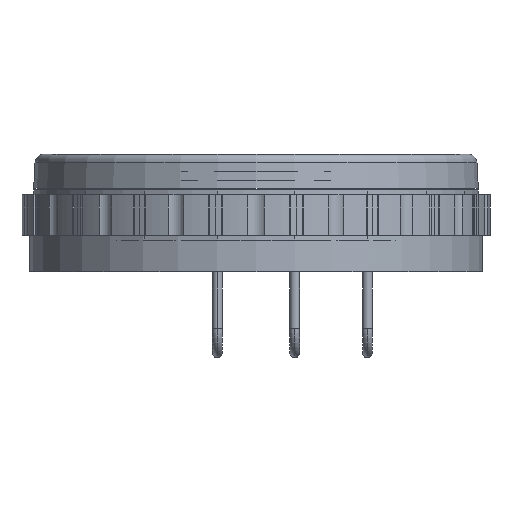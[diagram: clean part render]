
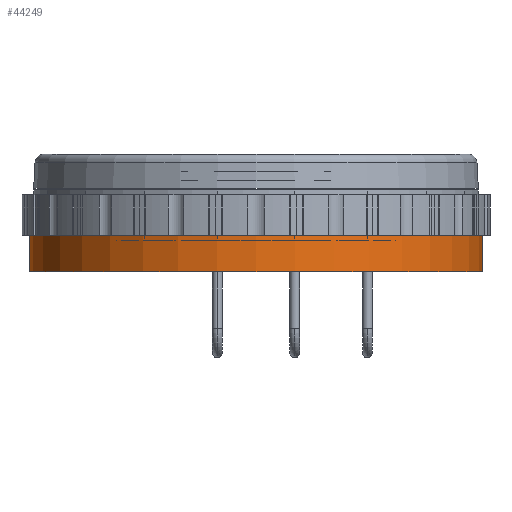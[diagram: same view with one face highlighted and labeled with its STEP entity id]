
A CAD part, front view. The second image highlights one B-rep face of the part: STEP entity #44249.
In plain terms, the highlighted cylindrical face has radius 28 mm (diameter 56 mm), a partial arc.
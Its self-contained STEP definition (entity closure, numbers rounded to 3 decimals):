
#398 = AXIS2_PLACEMENT_3D ( 'NONE', #15851, #28829, #43590 ) ;
#681 = CARTESIAN_POINT ( 'NONE',  ( -28., 0., -4.5 ) ) ;
#1208 = ORIENTED_EDGE ( 'NONE', *, *, #35914, .T. ) ;
#2102 = ORIENTED_EDGE ( 'NONE', *, *, #3829, .F. ) ;
#2933 = CIRCLE ( 'NONE', #41403, 28. ) ;
#3227 = VERTEX_POINT ( 'NONE', #36414 ) ;
#3829 = EDGE_CURVE ( 'NONE', #3227, #13416, #2933, .T. ) ;
#4779 = VERTEX_POINT ( 'NONE', #26684 ) ;
#5499 = DIRECTION ( 'NONE',  ( 0., 0., 1. ) ) ;
#8538 = VERTEX_POINT ( 'NONE', #22585 ) ;
#10315 = LINE ( 'NONE', #34419, #40039 ) ;
#13400 = EDGE_LOOP ( 'NONE', ( #35720, #14197, #1208, #2102 ) ) ;
#13416 = VERTEX_POINT ( 'NONE', #19790 ) ;
#14197 = ORIENTED_EDGE ( 'NONE', *, *, #26878, .T. ) ;
#15851 = CARTESIAN_POINT ( 'NONE',  ( 0., 0., -4.5 ) ) ;
#18815 = CARTESIAN_POINT ( 'NONE',  ( 0., 0., 0. ) ) ;
#19030 = DIRECTION ( 'NONE',  ( 0., 0., 1. ) ) ;
#19589 = DIRECTION ( 'NONE',  ( 1., 0., 0. ) ) ;
#19790 = CARTESIAN_POINT ( 'NONE',  ( 28., 0., 0. ) ) ;
#22585 = CARTESIAN_POINT ( 'NONE',  ( -28., 0., -4.5 ) ) ;
#26213 = EDGE_CURVE ( 'NONE', #8538, #3227, #32060, .T. ) ;
#26405 = CYLINDRICAL_SURFACE ( 'NONE', #35280, 28. ) ;
#26684 = CARTESIAN_POINT ( 'NONE',  ( 28., 0., -4.5 ) ) ;
#26878 = EDGE_CURVE ( 'NONE', #8538, #4779, #38146, .T. ) ;
#28429 = DIRECTION ( 'NONE',  ( 0., 0., 1. ) ) ;
#28829 = DIRECTION ( 'NONE',  ( 0., 0., 1. ) ) ;
#29820 = FACE_OUTER_BOUND ( 'NONE', #13400, .T. ) ;
#32060 = LINE ( 'NONE', #681, #36644 ) ;
#33343 = DIRECTION ( 'NONE',  ( 1., 0., 0. ) ) ;
#34419 = CARTESIAN_POINT ( 'NONE',  ( 28., 0., -4.5 ) ) ;
#35280 = AXIS2_PLACEMENT_3D ( 'NONE', #44164, #5499, #19589 ) ;
#35720 = ORIENTED_EDGE ( 'NONE', *, *, #26213, .F. ) ;
#35914 = EDGE_CURVE ( 'NONE', #4779, #13416, #10315, .T. ) ;
#36414 = CARTESIAN_POINT ( 'NONE',  ( -28., 0., 0. ) ) ;
#36644 = VECTOR ( 'NONE', #28429, 1000. ) ;
#38146 = CIRCLE ( 'NONE', #398, 28. ) ;
#40039 = VECTOR ( 'NONE', #44679, 1000. ) ;
#41403 = AXIS2_PLACEMENT_3D ( 'NONE', #18815, #19030, #33343 ) ;
#43590 = DIRECTION ( 'NONE',  ( 1., 0., 0. ) ) ;
#44164 = CARTESIAN_POINT ( 'NONE',  ( 0., 0., -4.5 ) ) ;
#44249 = ADVANCED_FACE ( 'NONE', ( #29820 ), #26405, .T. ) ;
#44679 = DIRECTION ( 'NONE',  ( 0., 0., 1. ) ) ;
